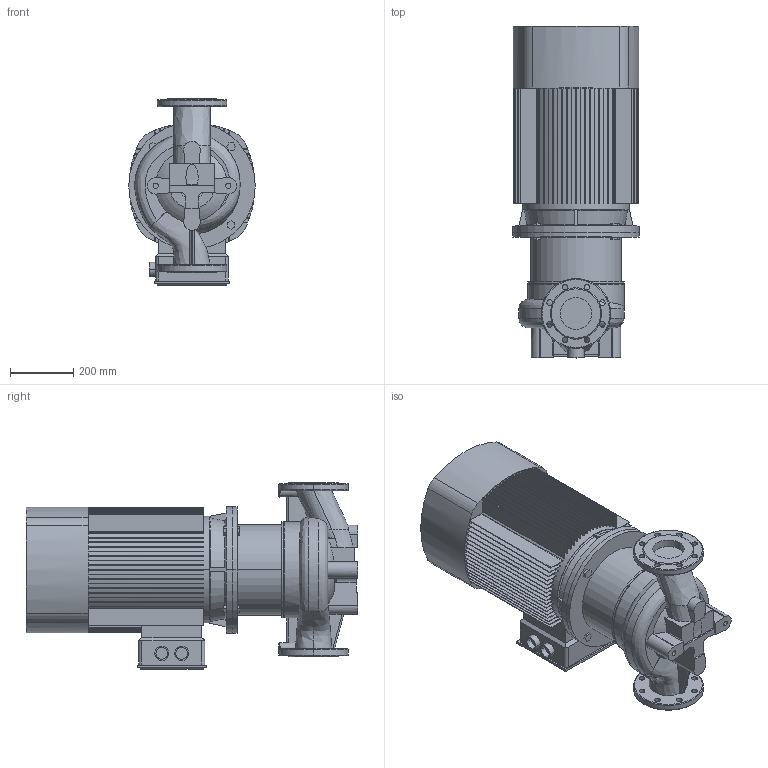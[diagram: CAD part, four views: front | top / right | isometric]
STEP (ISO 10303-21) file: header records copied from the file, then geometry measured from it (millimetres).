
FILE_DESCRIPTION (( 'STEP AP203' ), '1' );
FILE_NAME ('TD100-52G_2.STEP', '2022-05-02T18:59:14', ( '' ), ( '' ), 'SwSTEP 2.0', 'SolidWorks 2019', '' );
FILE_SCHEMA (( 'CONFIG_CONTROL_DESIGN' ));
Length unit declared in the file: millimetre
Products named in the file (4): Pr_ch 100_TD100-52G_2; ED_B5_YE2-200L1-2 (30); TD100-52G_2; Fon_100_TD100-52G_2
Assembly tree (3 placements, depth 2):
  TD100-52G_2
    Pr_ch 100_TD100-52G_2
    Fon_100_TD100-52G_2
    ED_B5_YE2-200L1-2 (30)
Bounding box: 400 x 1049 x 589 mm (x, y, z)
Volume: 95013822.3 mm3; surface area: 4071985.9 mm2
Topology: 13 solids, 15 shells, 742 faces, 2040 edges, 1341 vertices
Faces by surface type: plane 505, cylinder 160, torus 30, bspline 28, cone 17, sphere 2
Entity records: 30848 total; most frequent: CARTESIAN_POINT 11331, ORIENTED_EDGE 4072, DIRECTION 3971, EDGE_CURVE 2036, AXIS2_PLACEMENT_3D 1393, VERTEX_POINT 1341, LINE 1185, VECTOR 1185
